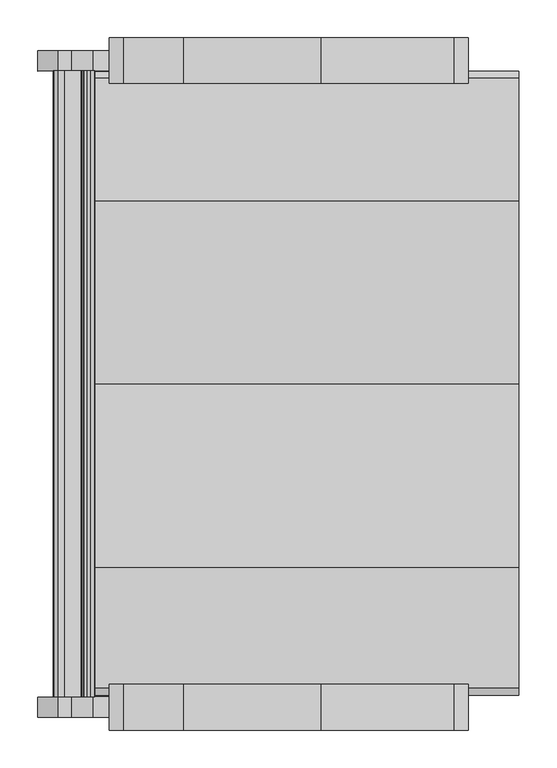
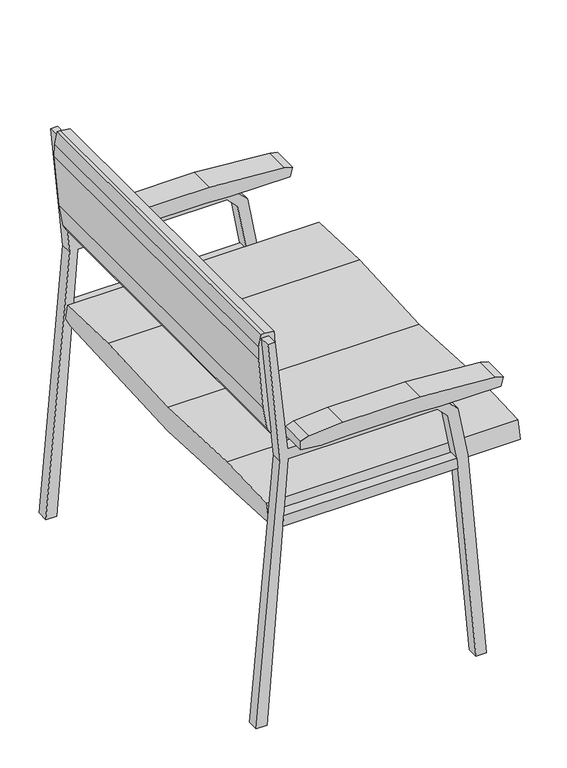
"""IFC4 building model written with IfcOpenShell, lengths in millimetres: proxy geometry, F0206 - Chair, Side, Bariatric, With Arms : F0206 - Chair, Side, Bariatric, With Arms."""

from ifc_helpers import new_model, si_unit, frame, origin, place, context, project, spatial, polyline, outline, extrude, source, transform, mapped, element, save


def specialty_equipment_80ac4eb8(model_context):
    return source(origin(), model_context, "Body", "SweptSolid", [
        extrude(outline(polyline([(949.5558695, -311.1537839), (949.0276678, -318.7074199), (920.9464532, -325.0034294), (890.9596762, -325.3292021), (766.4444592, -314.4355322), (712.0444312, -305.2568925), (699.4048634, -298.0401158), (701.6800869, -272.034192), (734.5347731, -270.4665261), (744.2301544, -271.4855517), (775.1826091, -275.7766879), (831.1136295, -280.6700181), (872.5802588, -284.2978781), (887.0899422, -285.5673109), (935.3234911, -287.117059), (946.525946, -288.0971468), (949.5558695, -311.1537839)])), frame((0.0, -413.1203187, 0.0), z_axis=(0.0, 1.0, 0.0), x_axis=(0.0, 0.0, 1.0)), (0.0, 0.0, 1.0), 826.7382461),
        extrude(outline(polyline([(-401.5638073, 518.4522115), (-241.6696752, 524.0358376), (0.2532363, 511.5153378), (242.1729901, 524.0426254), (404.9499337, 518.3583293), (413.5102314, 480.4368736), (392.4597761, 474.4007527), (0.2531025, 454.1861401), (-407.7498249, 475.0943297), (-411.1185213, 476.0728324), (-401.5638073, 518.4522115)])), frame((-298.9821863, 0.0, 0.0), z_axis=(1.0, 0.0, 0.0), x_axis=(0.0, 1.0, 0.0)), (0.0, 0.0, 1.0), 588.242657),
        extrude(outline(polyline([(688.7736743, -251.564601), (667.1445431, -251.564601), (661.9341602, -204.3360256), (664.006805, -143.3611091), (664.006805, 19.1738054), (660.8978378, 73.9398573), (660.8978378, 216.6607198), (682.4569534, 222.6576103), (687.0858486, 204.4776488), (700.8875965, 28.2873238), (700.8875965, -152.7638707), (695.7892437, -232.2894826), (688.7736743, -251.564601)])), frame((0.0, -456.8197608, 0.0), z_axis=(0.0, 1.0, 0.0), x_axis=(0.0, 0.0, 1.0)), (0.0, 0.0, 1.0), 60.4113562),
        extrude(outline(polyline([(688.7736743, -251.564601), (667.1445431, -251.564601), (661.9341602, -204.3360256), (664.006805, -143.3611091), (664.006805, 19.1738054), (660.8978378, 73.9398573), (660.8978378, 216.6607198), (682.4569534, 222.6576103), (687.0858486, 204.4776488), (700.8875965, 28.2873238), (700.8875965, -152.7638707), (695.7892437, -232.2894826), (688.7736743, -251.564601)])), frame((0.0, 397.4330384, 0.0), z_axis=(0.0, 1.0, 0.0), x_axis=(0.0, 0.0, 1.0)), (0.0, 0.0, 1.0), 59.893195),
        extrude(outline(polyline([(504.8449262, 124.2214058), (504.8449262, -281.5012213), (479.5415809, -283.4476016), (479.5415809, 126.4351616), (504.8449262, 124.2214058)])), frame((0.0, -440.1167348, 0.0), z_axis=(0.0, 1.0, 0.0), x_axis=(0.0, 0.0, 1.0)), (0.0, 0.0, 1.0), 25.4),
        extrude(outline(polyline([(504.8449262, 124.2214058), (504.8449262, -281.5012213), (479.5415809, -283.4476016), (479.5415809, 126.4351616), (504.8449262, 124.2214058)])), frame((0.0, 413.6179274, 0.0), z_axis=(0.0, 1.0, 0.0), x_axis=(0.0, 0.0, 1.0)), (0.0, 0.0, 1.0), 25.4),
        extrude(outline(polyline([(0.0, -320.334829), (642.1831371, -270.9369115), (642.1831371, 78.3130885), (617.1504769, 103.3457486), (505.0230984, 124.2058177), (0.0, 168.3896137), (0.0, 192.7857887), (505.0203406, 149.127368), (627.5762276, 126.3271893), (667.1445431, 84.5821495), (667.1445431, -273.090983), (940.2581485, -301.7963796), (940.2581485, -318.6772529), (642.1831371, -289.7262447), (0.0, -345.734829), (0.0, -320.334829)])), frame((0.0, -440.1167348, 0.0), z_axis=(0.0, 1.0, 0.0), x_axis=(0.0, 0.0, 1.0)), (0.0, 0.0, 1.0), 26.9964161),
        extrude(outline(polyline([(0.0, -320.334829), (642.1831371, -270.9369115), (642.1831371, 78.3130885), (617.1504769, 103.3457486), (505.0230984, 124.2058177), (0.0, 168.3896137), (0.0, 192.7857887), (505.0203406, 149.127368), (627.5762276, 126.3271893), (667.1445431, 84.5821495), (667.1445431, -273.090983), (940.2581485, -301.7963796), (940.2581485, -318.6772529), (642.1831371, -289.7262447), (0.0, -345.734829), (0.0, -320.334829)])), frame((0.0, 413.6179274, 0.0), z_axis=(0.0, 1.0, 0.0), x_axis=(0.0, 0.0, 1.0)), (0.0, 0.0, 1.0), 26.9964161),
    ])


if __name__ == "__main__":
    model = new_model("IFC4")
    model_context = context("Model", 3, world=origin())
    ifc_project = project(units=[si_unit("LENGTHUNIT", "METRE", prefix="MILLI")], contexts=[model_context])
    site = spatial("IfcSite", under=ifc_project)
    building = spatial("IfcBuilding", under=site)
    placement = place(None, origin())
    specialty_equipment_shape = specialty_equipment_80ac4eb8(model_context)
    element("IfcBuildingElementProxy", 1, Name="F0206 - Chair, Side, Bariatric, With Arms : F0206 - Chair, Side, Bariatric, With Arms", ObjectType="F0206 - Chair, Side, Bariatric, With Arms : F0206 - Chair, Side, Bariatric, With Arms", at=placement, inside=building, context=model_context, shape_type="MappedRepresentation", body=[
        mapped(specialty_equipment_shape, transform((0.0, 0.0, 0.0), x_axis=(1.0, 0.0, 0.0), y_axis=(0.0, 1.0, 0.0), z_axis=(0.0, 0.0, 1.0))),
    ])
    save(model, "model.ifc")
